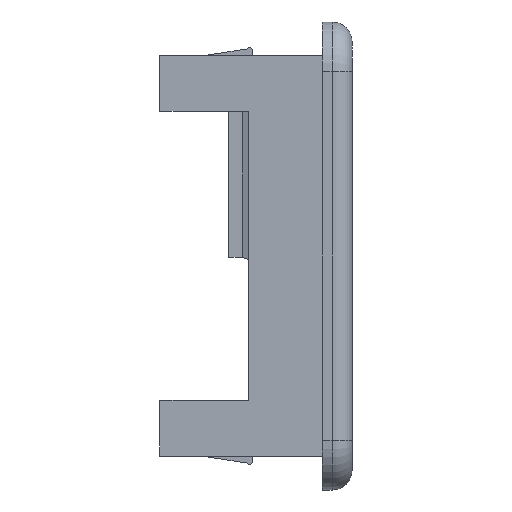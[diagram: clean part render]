
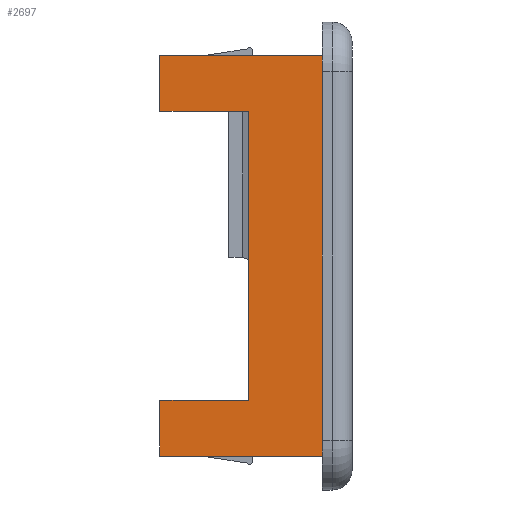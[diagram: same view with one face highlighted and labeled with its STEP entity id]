
A CAD part, left-side view. The second image highlights one B-rep face of the part: STEP entity #2697.
In plain terms, the highlighted planar face has unit normal (-1, 0, 0).
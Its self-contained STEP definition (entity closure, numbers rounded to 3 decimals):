
#228=FACE_OUTER_BOUND('',#389,.T.);
#389=EDGE_LOOP('',(#2123,#2124,#2125,#2126,#2127,#2128,#2129,#2130));
#657=LINE('',#4118,#971);
#660=LINE('',#4124,#974);
#688=LINE('',#4232,#1002);
#689=LINE('',#4233,#1003);
#690=LINE('',#4235,#1004);
#691=LINE('',#4237,#1005);
#692=LINE('',#4238,#1006);
#693=LINE('',#4239,#1007);
#971=VECTOR('',#3306,10.);
#974=VECTOR('',#3311,10.);
#1002=VECTOR('',#3421,10.);
#1003=VECTOR('',#3422,10.);
#1004=VECTOR('',#3423,10.);
#1005=VECTOR('',#3424,10.);
#1006=VECTOR('',#3425,10.);
#1007=VECTOR('',#3426,10.);
#1240=VERTEX_POINT('',#4115);
#1241=VERTEX_POINT('',#4117);
#1242=VERTEX_POINT('',#4121);
#1243=VERTEX_POINT('',#4123);
#1281=VERTEX_POINT('',#4230);
#1282=VERTEX_POINT('',#4231);
#1283=VERTEX_POINT('',#4234);
#1284=VERTEX_POINT('',#4236);
#1544=EDGE_CURVE('',#1240,#1241,#657,.T.);
#1547=EDGE_CURVE('',#1242,#1243,#660,.T.);
#1601=EDGE_CURVE('',#1281,#1282,#688,.T.);
#1602=EDGE_CURVE('',#1281,#1243,#689,.T.);
#1603=EDGE_CURVE('',#1283,#1242,#690,.T.);
#1604=EDGE_CURVE('',#1283,#1284,#691,.T.);
#1605=EDGE_CURVE('',#1284,#1241,#692,.T.);
#1606=EDGE_CURVE('',#1282,#1240,#693,.T.);
#2123=ORIENTED_EDGE('',*,*,#1601,.F.);
#2124=ORIENTED_EDGE('',*,*,#1602,.T.);
#2125=ORIENTED_EDGE('',*,*,#1547,.F.);
#2126=ORIENTED_EDGE('',*,*,#1603,.F.);
#2127=ORIENTED_EDGE('',*,*,#1604,.T.);
#2128=ORIENTED_EDGE('',*,*,#1605,.T.);
#2129=ORIENTED_EDGE('',*,*,#1544,.F.);
#2130=ORIENTED_EDGE('',*,*,#1606,.F.);
#2572=PLANE('',#2886);
#2697=ADVANCED_FACE('',(#228),#2572,.T.);
#2886=AXIS2_PLACEMENT_3D('',#4229,#3419,#3420);
#3306=DIRECTION('',(0.,0.,1.));
#3311=DIRECTION('',(0.,0.,1.));
#3419=DIRECTION('center_axis',(-1.,0.,0.));
#3420=DIRECTION('ref_axis',(0.,0.,1.));
#3421=DIRECTION('',(0.,0.,-1.));
#3422=DIRECTION('',(0.,1.,0.));
#3423=DIRECTION('',(0.,1.,0.));
#3424=DIRECTION('',(0.,0.,-1.));
#3425=DIRECTION('',(0.,1.,0.));
#3426=DIRECTION('',(0.,1.,0.));
#4115=CARTESIAN_POINT('',(2.4,16.3,2.4));
#4117=CARTESIAN_POINT('',(2.4,16.3,8.005));
#4118=CARTESIAN_POINT('',(2.4,16.3,2.5));
#4121=CARTESIAN_POINT('',(2.4,16.3,37.046));
#4123=CARTESIAN_POINT('',(2.4,16.3,42.6));
#4124=CARTESIAN_POINT('',(2.4,16.3,2.5));
#4229=CARTESIAN_POINT('Origin',(2.4,0.,2.5));
#4230=CARTESIAN_POINT('',(2.4,0.,42.6));
#4231=CARTESIAN_POINT('',(2.4,0.,2.4));
#4232=CARTESIAN_POINT('',(2.4,0.,12.5));
#4233=CARTESIAN_POINT('',(2.4,0.,42.6));
#4234=CARTESIAN_POINT('',(2.4,7.4,37.046));
#4235=CARTESIAN_POINT('',(2.4,13.4,37.046));
#4236=CARTESIAN_POINT('',(2.4,7.4,8.005));
#4237=CARTESIAN_POINT('',(2.4,7.4,42.5));
#4238=CARTESIAN_POINT('',(2.4,7.4,8.005));
#4239=CARTESIAN_POINT('',(2.4,13.4,2.4));
